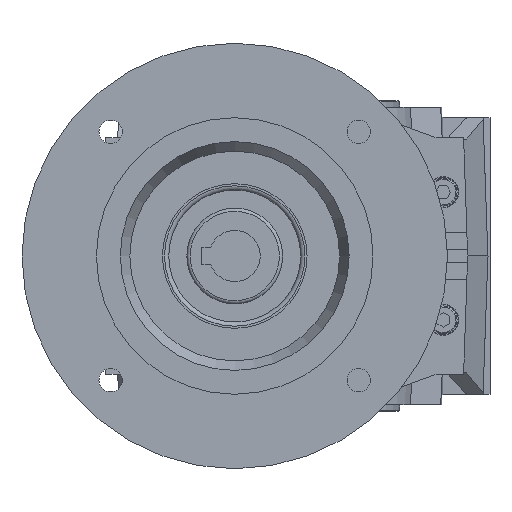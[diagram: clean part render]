
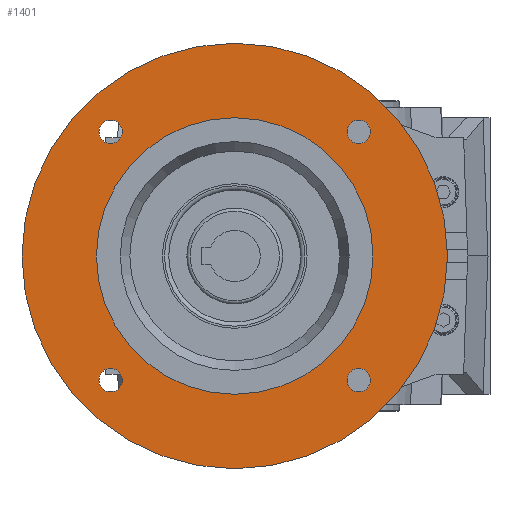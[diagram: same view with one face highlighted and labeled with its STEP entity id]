
A CAD part, left-side view. The second image highlights one B-rep face of the part: STEP entity #1401.
In plain terms, the highlighted planar face has unit normal (-1, 0, 0).
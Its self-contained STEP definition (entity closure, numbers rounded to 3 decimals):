
#1401 = ADVANCED_FACE( '', ( #3670, #3671, #3672, #3673, #3674, #3675 ), #3676, .T. );
#3670 = FACE_OUTER_BOUND( '', #7278, .T. );
#3671 = FACE_BOUND( '', #7279, .T. );
#3672 = FACE_BOUND( '', #7280, .T. );
#3673 = FACE_BOUND( '', #7281, .T. );
#3674 = FACE_BOUND( '', #7282, .T. );
#3675 = FACE_BOUND( '', #7283, .T. );
#3676 = PLANE( '', #7284 );
#7278 = EDGE_LOOP( '', ( #13573 ) );
#7279 = EDGE_LOOP( '', ( #13574 ) );
#7280 = EDGE_LOOP( '', ( #13575 ) );
#7281 = EDGE_LOOP( '', ( #13576 ) );
#7282 = EDGE_LOOP( '', ( #13577 ) );
#7283 = EDGE_LOOP( '', ( #13578 ) );
#7284 = AXIS2_PLACEMENT_3D( '', #13579, #13580, #13581 );
#13573 = ORIENTED_EDGE( '', *, *, #21460, .F. );
#13574 = ORIENTED_EDGE( '', *, *, #21461, .T. );
#13575 = ORIENTED_EDGE( '', *, *, #20758, .T. );
#13576 = ORIENTED_EDGE( '', *, *, #20543, .T. );
#13577 = ORIENTED_EDGE( '', *, *, #21462, .T. );
#13578 = ORIENTED_EDGE( '', *, *, #21463, .T. );
#13579 = CARTESIAN_POINT( '', ( -255., 130., 0. ) );
#13580 = DIRECTION( '', ( -1., 0., 0. ) );
#13581 = DIRECTION( '', ( 0., 0., 1. ) );
#20543 = EDGE_CURVE( '', #23821, #23821, #23822, .T. );
#20758 = EDGE_CURVE( '', #24206, #24206, #24207, .T. );
#21460 = EDGE_CURVE( '', #25413, #25413, #25414, .T. );
#21461 = EDGE_CURVE( '', #25415, #25415, #25416, .T. );
#21462 = EDGE_CURVE( '', #25417, #25417, #25418, .T. );
#21463 = EDGE_CURVE( '', #25419, #25419, #25420, .T. );
#23821 = VERTEX_POINT( '', #28625 );
#23822 = CIRCLE( '', #28626, 65. );
#24206 = VERTEX_POINT( '', #29327 );
#24207 = CIRCLE( '', #29328, 5.5 );
#25413 = VERTEX_POINT( '', #31523 );
#25414 = CIRCLE( '', #31524, 100. );
#25415 = VERTEX_POINT( '', #31525 );
#25416 = CIRCLE( '', #31526, 5.5 );
#25417 = VERTEX_POINT( '', #31527 );
#25418 = CIRCLE( '', #31528, 5.5 );
#25419 = VERTEX_POINT( '', #31529 );
#25420 = CIRCLE( '', #31530, 5.5 );
#28625 = CARTESIAN_POINT( '', ( -255., 95., 0. ) );
#28626 = AXIS2_PLACEMENT_3D( '', #37235, #37236, #37237 );
#29327 = CARTESIAN_POINT( '', ( -255., 82.836, 58.336 ) );
#29328 = AXIS2_PLACEMENT_3D( '', #37450, #37451, #37452 );
#31523 = CARTESIAN_POINT( '', ( -255., 130., 0. ) );
#31524 = AXIS2_PLACEMENT_3D( '', #38151, #38152, #38153 );
#31525 = CARTESIAN_POINT( '', ( -255., -33.836, -58.336 ) );
#31526 = AXIS2_PLACEMENT_3D( '', #38154, #38155, #38156 );
#31527 = CARTESIAN_POINT( '', ( -255., -33.836, 58.336 ) );
#31528 = AXIS2_PLACEMENT_3D( '', #38157, #38158, #38159 );
#31529 = CARTESIAN_POINT( '', ( -255., 82.836, -58.336 ) );
#31530 = AXIS2_PLACEMENT_3D( '', #38160, #38161, #38162 );
#37235 = CARTESIAN_POINT( '', ( -255., 30., 0. ) );
#37236 = DIRECTION( '', ( 1., 0., 0. ) );
#37237 = DIRECTION( '', ( 0., 1., 0. ) );
#37450 = CARTESIAN_POINT( '', ( -255., 88.336, 58.336 ) );
#37451 = DIRECTION( '', ( 1., 0., 0. ) );
#37452 = DIRECTION( '', ( 0., -1., 0. ) );
#38151 = CARTESIAN_POINT( '', ( -255., 30., 0. ) );
#38152 = DIRECTION( '', ( 1., 0., 0. ) );
#38153 = DIRECTION( '', ( 0., 1., 0. ) );
#38154 = CARTESIAN_POINT( '', ( -255., -28.336, -58.336 ) );
#38155 = DIRECTION( '', ( 1., 0., 0. ) );
#38156 = DIRECTION( '', ( 0., -1., 0. ) );
#38157 = CARTESIAN_POINT( '', ( -255., -28.336, 58.336 ) );
#38158 = DIRECTION( '', ( 1., 0., 0. ) );
#38159 = DIRECTION( '', ( 0., -1., 0. ) );
#38160 = CARTESIAN_POINT( '', ( -255., 88.336, -58.336 ) );
#38161 = DIRECTION( '', ( 1., 0., 0. ) );
#38162 = DIRECTION( '', ( 0., -1., 0. ) );
